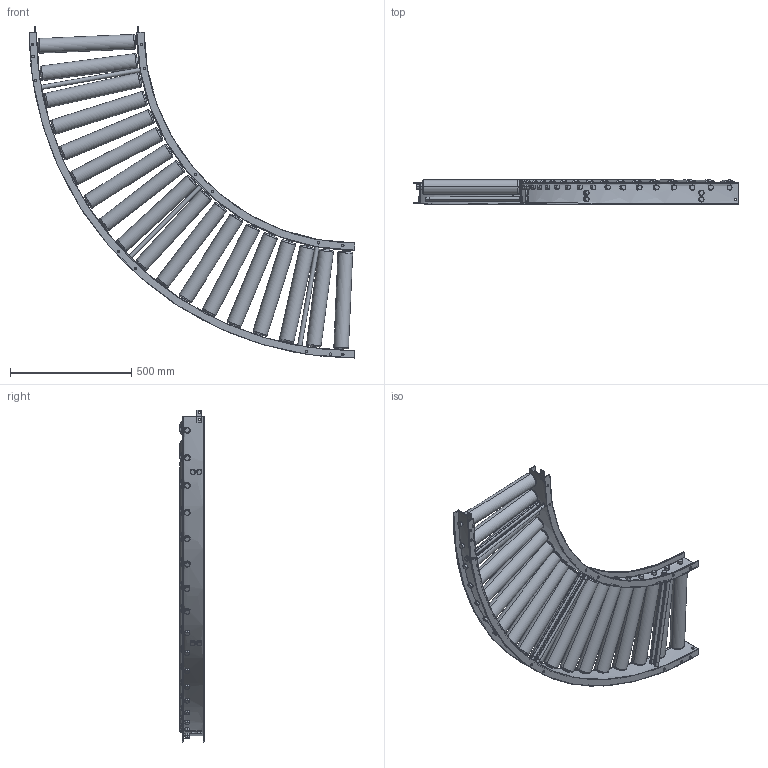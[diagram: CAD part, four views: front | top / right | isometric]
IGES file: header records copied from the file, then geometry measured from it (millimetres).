
Start section: SolidWorks IGES file using analytic representation for surfaces
Global section: file name: C:\Users\0656\Desktop\変換ツール\iges変換\RZ-6038SB_C.igs; native system: SolidWorks 2023; preprocessor: SolidWorks 2023; author: 0656; date: 240315.112754; units: millimetre
Bounding box: 1345 x 100.25 x 1370.12 mm (x, y, z)
Surface area: 3708388.3 mm2 (no closed solid volume)
Topology: 0 solids, 0 shells, 916 faces, 19804 edges, 19804 vertices
Faces by surface type: revolution 490, bspline 426
